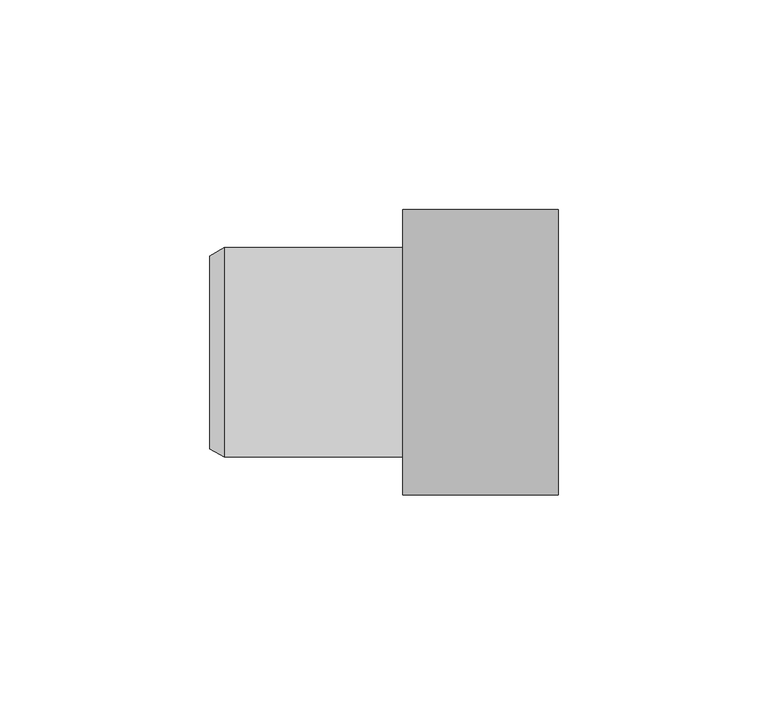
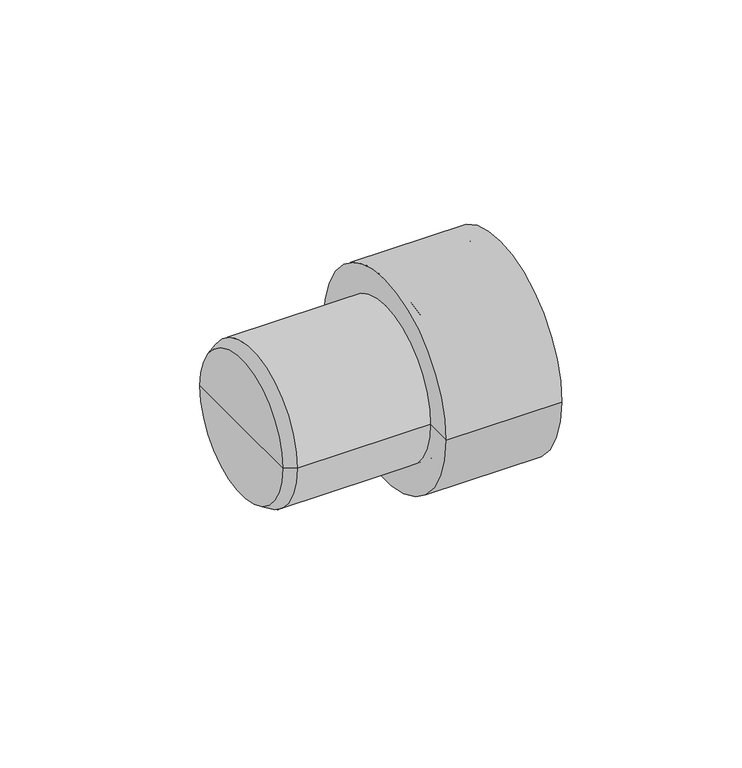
"""IFC4 building model written with IfcOpenShell, lengths in millimetres: pipe fitting geometry, NLRS_52_PIF_UN_Geberit Silent-PP aansluitstuk_PRO_101525 : DN30-50 / d32-50 - OD."""

from ifc_helpers import new_model, si_unit, point, frame, origin, place, context, project, spatial, polyline, circle_curve, ellipse_curve, trimmed, source, transform, mapped, element, save
from ifc_brep_helpers import plane_surface, cylinder_surface, revolved_surface, advanced_brep


def pipe_fitting_f22d951e(model_context):
    return source(origin(), model_context, "Body", "AdvancedBrep", [
        advanced_brep(
        [(2.0, 25.0, 0.0), (2.0, -25.0, 0.0), (0.0, -25.0, 0.0), (0.0, 25.0, 0.0)],
        [
            (0, 1, circle_curve(frame((2.0, 0.0, 0.0), z_axis=(-1.0, 0.0, 0.0), x_axis=(0.0, -1.0000000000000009, 0.0)), 25.0)),
            (1, 2, circle_curve(frame((1.0, -25.0, 0.0), z_axis=(0.0, 0.0, -1.0000000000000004), x_axis=(-1.0000000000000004, 0.0, 0.0)), 1.0)),
            (2, 3, circle_curve(frame((0.0, 0.0, 0.0), z_axis=(1.0, 0.0, 0.0), x_axis=(0.0, -1.0000000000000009, 0.0)), 25.0)),
            (3, 0, circle_curve(frame((1.0, 25.0, 0.0), z_axis=(0.0, 0.0, -1.0000000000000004), x_axis=(-1.0000000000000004, 0.0, 0.0)), 1.0)),
            (1, 0, circle_curve(frame((2.0, 0.0, 0.0), z_axis=(-1.0, 0.0, 0.0), x_axis=(0.0, -1.0000000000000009, 0.0)), 25.0)),
            (3, 2, circle_curve(frame((0.0, 0.0, 0.0), z_axis=(1.0, 0.0, 0.0), x_axis=(0.0, -1.0000000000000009, 0.0)), 25.0)),
            (2, 1),
            (0, 3),
        ],
        [
            revolved_surface(trimmed(ellipse_curve(frame((1.0, -25.0, 0.0), z_axis=(0.0, 0.0, 1.0000000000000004), x_axis=(-1.0000000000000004, 0.0, 0.0)), 1.0, 1.0), [point((0.0, -25.0, 0.0))], [point((2.0, -25.0, 0.0))], True, "CARTESIAN"), (11.6090619, 0.0, 0.0), (1.0000000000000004, 0.0, 0.0)),
            revolved_surface(polyline([(1.999999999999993, -25.00000000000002, 0.0), (-1.0658141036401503e-14, -25.00000000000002, 0.0)]), (11.6090619, 0.0, 0.0), (1.0000000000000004, 0.0, 0.0)),
        ],
        [
            (0, [[1, 2, 3, 4]]),
            (0, [[5, -4, 6, -2]]),
            (1, [[-3, 7, -1, 8]]),
            (1, [[-6, -8, -5, -7]]),
        ],
    ),
        advanced_brep(
        [(-51.0, 23.0, 0.0), (-51.0, -23.0, 0.0), (-51.0, 0.0, 0.0), (-47.5358984, 25.0, 0.0), (-47.5358984, -25.0, 0.0), (0.0, 25.0, 0.0), (0.0, -25.0, 0.0), (0.0, 0.0, 0.0)],
        [
            (0, 1, circle_curve(frame((-51.0, 0.0, 0.0), z_axis=(-1.0, 0.0, 0.0), x_axis=(0.0, -1.0000000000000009, 0.0)), 23.0)),
            (1, 2),
            (2, 0),
            (1, 0, circle_curve(frame((-51.0, 0.0, 0.0), z_axis=(-1.0, 0.0, 0.0), x_axis=(0.0, -1.0000000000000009, 0.0)), 23.0)),
            (3, 4, circle_curve(frame((-47.5358984, 0.0, 0.0), z_axis=(-1.0, 0.0, 0.0), x_axis=(0.0, -1.0000000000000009, 0.0)), 25.0)),
            (4, 1),
            (0, 3),
            (4, 3, circle_curve(frame((-47.5358984, 0.0, 0.0), z_axis=(-1.0, 0.0, 0.0), x_axis=(0.0, -1.0000000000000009, 0.0)), 25.0)),
            (5, 6, circle_curve(frame((0.0, 0.0, 0.0), z_axis=(-1.0, 0.0, 0.0), x_axis=(0.0, -1.0000000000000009, 0.0)), 25.0)),
            (6, 4),
            (3, 5),
            (6, 5, circle_curve(frame((0.0, 0.0, 0.0), z_axis=(-1.0, 0.0, 0.0), x_axis=(0.0, -1.0000000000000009, 0.0)), 25.0)),
            (7, 6),
            (5, 7),
        ],
        [
            plane_surface(frame((-51.0, 0.0, 0.0), z_axis=(-1.0, 0.0, 0.0), x_axis=(0.0, -1.0, 0.0))),
            revolved_surface(polyline([(-51.0, -23.0, 0.0), (-47.5358984, -25.0, 0.0)]), (-66.0, 0.0, 0.0), (1.0000000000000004, 0.0, 0.0)),
            cylinder_surface(frame((-66.0, 0.0, 0.0), z_axis=(1.0000000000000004, 0.0, 0.0), x_axis=(0.0, -1.0000000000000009, 0.0)), 25.0),
            plane_surface(frame((0.0, 0.0, 0.0), z_axis=(1.0, 0.0, 0.0), x_axis=(0.0, -1.0, 0.0))),
        ],
        [
            (0, [[1, 2, 3]]),
            (0, [[4, -3, -2]]),
            (1, [[5, 6, -1, 7]]),
            (1, [[8, -7, -4, -6]]),
            (2, [[9, 10, -5, 11]]),
            (2, [[12, -11, -8, -10]]),
            (3, [[13, -9, 14]]),
            (3, [[-14, -12, -13]]),
        ],
    ),
        advanced_brep(
        [(0.0, -29.0, 0.0), (0.0, 29.0, 0.0), (0.0, 0.0, 0.0), (32.0, -29.0, 0.0), (32.0, 29.0, 0.0), (32.0, -34.0, 0.0), (32.0, 34.0, 0.0), (-5.0, -34.0, 0.0), (-5.0, 34.0, 0.0), (-5.0, 0.0, 0.0)],
        [
            (0, 1, circle_curve(frame((0.0, 0.0, 0.0), z_axis=(1.0, 0.0, 0.0), x_axis=(0.0, 1.0, 0.0)), 29.0)),
            (1, 2),
            (2, 0),
            (1, 0, circle_curve(frame((0.0, 0.0, 0.0), z_axis=(1.0, 0.0, 0.0), x_axis=(0.0, 1.0, 0.0)), 29.0)),
            (3, 4, circle_curve(frame((32.0, 0.0, 0.0), z_axis=(1.0, 0.0, 0.0), x_axis=(0.0, 1.0, 0.0)), 29.0)),
            (4, 1),
            (0, 3),
            (4, 3, circle_curve(frame((32.0, 0.0, 0.0), z_axis=(1.0, 0.0, 0.0), x_axis=(0.0, 1.0, 0.0)), 29.0)),
            (5, 6, circle_curve(frame((32.0, 0.0, 0.0), z_axis=(1.0, 0.0, 0.0), x_axis=(0.0, 1.0, 0.0)), 34.0)),
            (6, 4),
            (3, 5),
            (6, 5, circle_curve(frame((32.0, 0.0, 0.0), z_axis=(1.0, 0.0, 0.0), x_axis=(0.0, 1.0, 0.0)), 34.0)),
            (7, 8, circle_curve(frame((-5.0, 0.0, 0.0), z_axis=(1.0, 0.0, 0.0), x_axis=(0.0, 1.0, 0.0)), 34.0)),
            (8, 6),
            (5, 7),
            (8, 7, circle_curve(frame((-5.0, 0.0, 0.0), z_axis=(1.0, 0.0, 0.0), x_axis=(0.0, 1.0, 0.0)), 34.0)),
            (9, 8),
            (7, 9),
        ],
        [
            plane_surface(frame((0.0, 0.0, 0.0), z_axis=(1.0, 0.0, 0.0), x_axis=(0.0, 1.0, 0.0))),
            revolved_surface(polyline([(0.0, 29.0, 0.0), (32.0, 29.0, 0.0)]), (-25.0, 0.0, 0.0), (-1.0, 0.0, 0.0)),
            plane_surface(frame((32.0, 0.0, 0.0), z_axis=(1.0, 0.0, 0.0), x_axis=(0.0, 1.0, 0.0))),
            cylinder_surface(frame((-25.0, 0.0, 0.0), z_axis=(-1.0, 0.0, 0.0), x_axis=(0.0, 1.0, 0.0)), 34.0),
            plane_surface(frame((-5.0, 0.0, 0.0), z_axis=(-1.0, 0.0, 0.0), x_axis=(0.0, 1.0, 0.0))),
        ],
        [
            (0, [[1, 2, 3]]),
            (0, [[4, -3, -2]]),
            (1, [[5, 6, -1, 7]]),
            (1, [[8, -7, -4, -6]]),
            (2, [[9, 10, -5, 11]]),
            (2, [[12, -11, -8, -10]]),
            (3, [[13, 14, -9, 15]]),
            (3, [[16, -15, -12, -14]]),
            (4, [[17, -13, 18]]),
            (4, [[-18, -16, -17]]),
        ],
    ),
    ])


if __name__ == "__main__":
    model = new_model("IFC4")
    model_context = context("Model", 3, world=origin())
    ifc_project = project(units=[si_unit("LENGTHUNIT", "METRE", prefix="MILLI")], contexts=[model_context])
    site = spatial("IfcSite", under=ifc_project)
    building = spatial("IfcBuilding", under=site)
    placement = place(None, origin())
    pipe_fitting_shape = pipe_fitting_f22d951e(model_context)
    element("IfcPipeFitting", 1, ObjectType="NLRS_52_PIF_UN_Geberit Silent-PP aansluitstuk_PRO_101525 : DN30-50 / d32-50 - OD", at=placement, inside=building, context=model_context, shape_type="MappedRepresentation", body=[
        mapped(pipe_fitting_shape, transform((0.0, 0.0, 0.0), x_axis=(1.0, 0.0, 0.0), y_axis=(0.0, 1.0, 0.0), z_axis=(0.0, 0.0, 1.0))),
    ])
    save(model, "model.ifc")
